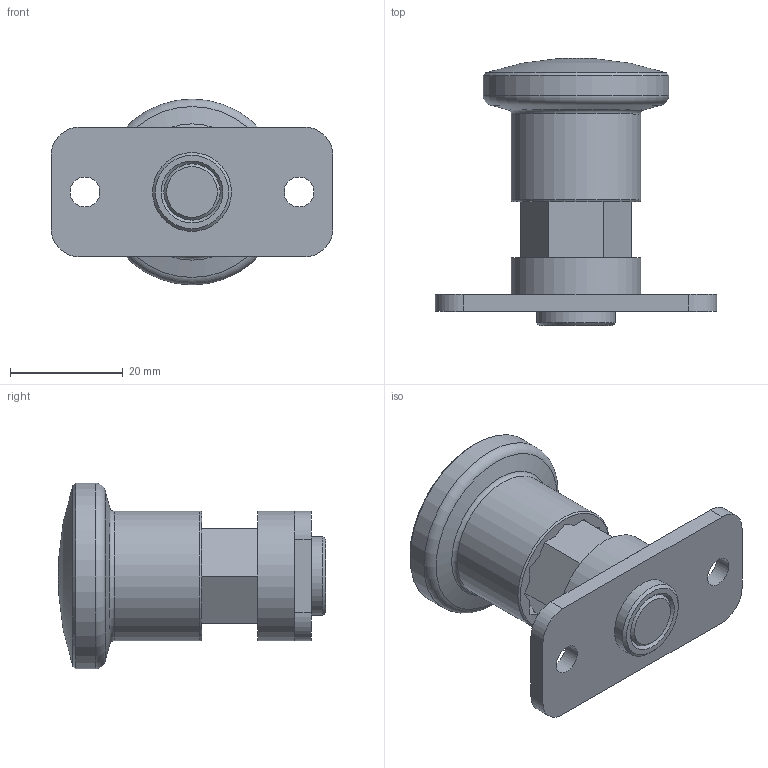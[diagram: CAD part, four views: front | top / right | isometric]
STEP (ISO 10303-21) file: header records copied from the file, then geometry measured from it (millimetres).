
FILE_DESCRIPTION( ( 'STEP AP203' ), '1' );
FILE_NAME( 'C:/Temp/Ganter_Step_05_03_2020/data/3_1/gn822_9/gn822_9_cn/Stainless Steel-Mini indexing plunger GN 822.9-10-10-CN (activated).stp', '2020-03-12T09:25:22', ( 'License CC BY-ND 4.0' ), ( 'CADENAS' ), ' ', 'PARTsolutions', ' ' );
FILE_SCHEMA( ( 'CONFIG_CONTROL_DESIGN' ) );
Length unit declared in the file: millimetre
Products named in the file (3): Stainless Steel-Mini indexing plunger GN 822.9-10-10-CN (activated); _Stainless Steel-Mini indexing plunger GN 822.9-10-10-CN (deactivated)_1; _Stainless Steel-Mini indexing plunger GN 822.9-10-10-CN (deactivated)_2
Assembly tree (2 placements, depth 2):
  Stainless Steel-Mini indexing plunger GN 822.9-10-10-CN (activated)
    _Stainless Steel-Mini indexing plunger GN 822.9-10-10-CN (deactivated)_1
    _Stainless Steel-Mini indexing plunger GN 822.9-10-10-CN (deactivated)_2
Bounding box: 50 x 47.42 x 33 mm (x, y, z)
Volume: 19333.1 mm3; surface area: 11405.2 mm2
Topology: 2 solids, 2 shells, 79 faces, 187 edges, 118 vertices
Faces by surface type: plane 46, cylinder 15, cone 14, torus 3, sphere 1
Full cylindrical faces by diameter (mm): 5.3 x2, 7.5 x2, 10 x2, 14 x1, 17 x1, 23 x2, 33 x1
Entity records: 2328 total; most frequent: CARTESIAN_POINT 496, DIRECTION 354, ORIENTED_EDGE 322, EDGE_CURVE 161, AXIS2_PLACEMENT_3D 129, VERTEX_POINT 115, EDGE_LOOP 114, LINE 96
